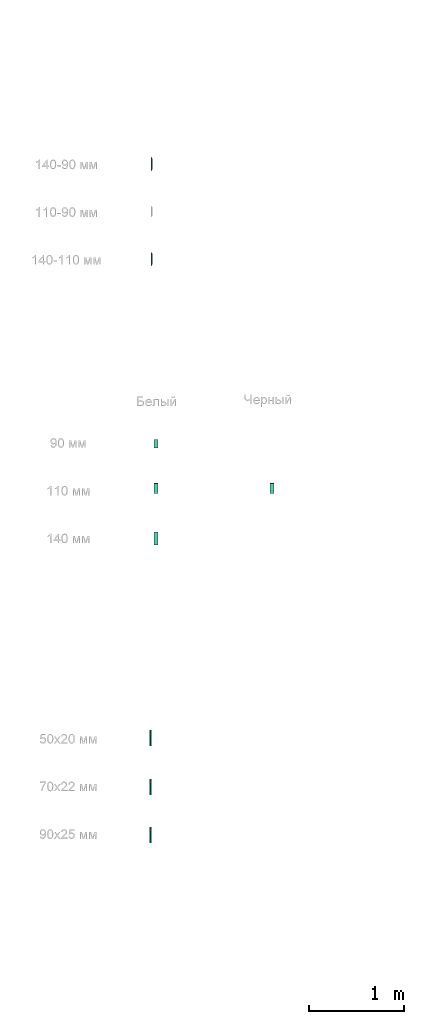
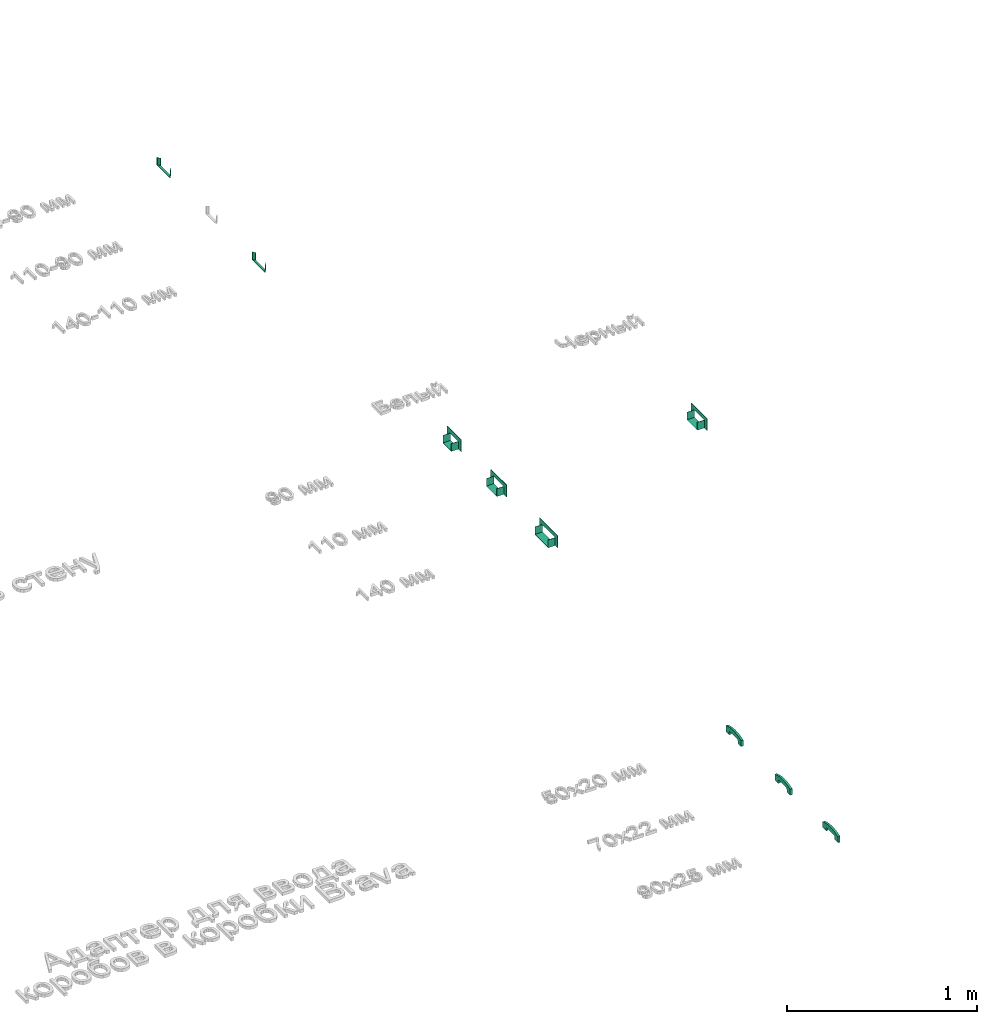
# One storey, part 2 of 87: 9 flow fittings.
"""IFC2X3 building model written with IfcOpenShell, lengths in millimetres."""

import ifcopenshell
import ifcopenshell.guid

model = None  # the IFC model being written
_history = None  # IfcOwnerHistory: only IFC2X3 demands one
_inside = {}  # id of a spatial element -> (the spatial element, [elements in it])
_under = {}  # id of a project, library or spatial element -> (it, [spatial elements below it])
_declared = {}  # id of a project -> (the project, [libraries it declares])
_typed = {}  # id of a type object -> (the type object, [elements of that type])
_made_of = {}  # id of a material, layer set ... -> (it, [elements and type objects made of it])


def new_model(schema):
    """Start an empty IFC model of exactly this schema.

    Asked for "IFC4X3", IfcOpenShell would pick the latest addendum, in which some entities
    have other attributes; the version numbers below select the first issue.
    IFC2X3 requires an IfcOwnerHistory on every rooted entity: one is made here for all.
    """
    global model, _history
    if schema == "IFC4X3":
        model = ifcopenshell.file(schema_version=(4, 3, 0, 0))
    else:
        model = ifcopenshell.file(schema=schema)
    _inside.clear()
    _under.clear()
    _declared.clear()
    _typed.clear()
    _made_of.clear()
    _history = None
    if model.schema == "IFC2X3":
        org = make("IfcOrganization", Name="unknown")
        user = make(
            "IfcPersonAndOrganization",
            ThePerson=make("IfcPerson", FamilyName="unknown"),
            TheOrganization=org,
        )
        app = make(
            "IfcApplication",
            ApplicationDeveloper=org,
            Version="unknown",
            ApplicationFullName="unknown",
            ApplicationIdentifier="unknown",
        )
        _history = make(
            "IfcOwnerHistory",
            OwningUser=user,
            OwningApplication=app,
            ChangeAction="ADDED",
            CreationDate=0,
        )
    return model


def make(cls, **values):
    """One entity of the class cls with the attributes given. An attribute that is None is left unset."""
    return model.create_entity(
        cls, **{name: value for name, value in values.items() if value is not None}
    )


def entity(cls, *values):
    """Any entity or typed value of the class cls, its attributes in the order of the schema. None: left unset."""
    e = model.create_entity(cls)
    for i, value in enumerate(values):
        if value is not None:
            e[i] = value
    return e


def rooted(cls, **values):
    """An entity with a GlobalId (a new one), such as an element, a storey or a relation."""
    return make(cls, GlobalId=ifcopenshell.guid.new(), OwnerHistory=_history, **values)


def si_unit(unit_type, name, prefix=None):
    """IfcSIUnit, for example si_unit("LENGTHUNIT", "METRE", prefix="MILLI")."""
    return make("IfcSIUnit", UnitType=unit_type, Prefix=prefix, Name=name)


def converted_unit(unit_type, name, factor, base, dimensions=None, offset=None):
    """IfcConversionBasedUnit, such as the inch: factor (a typed value) times the base unit."""
    return make(
        "IfcConversionBasedUnit"
        if offset is None
        else "IfcConversionBasedUnitWithOffset",
        ConversionOffset=offset,
        Dimensions=None
        if dimensions is None
        else entity("IfcDimensionalExponents", *dimensions),
        UnitType=unit_type,
        Name=name,
        ConversionFactor=make(
            "IfcMeasureWithUnit", ValueComponent=factor, UnitComponent=base
        ),
    )


def derived_unit(unit_type, elements):
    """IfcDerivedUnit: a product of units, each with its exponent."""
    return make(
        "IfcDerivedUnit",
        Elements=[
            make("IfcDerivedUnitElement", Unit=unit, Exponent=power)
            for unit, power in elements
        ],
        UnitType=unit_type,
    )


def assignment(units):
    """IfcUnitAssignment: the units of a project."""
    return None if units is None else make("IfcUnitAssignment", Units=units)


def point(xyz):
    """IfcCartesianPoint."""
    return None if xyz is None else make("IfcCartesianPoint", Coordinates=xyz)


def direction(xyz):
    """IfcDirection."""
    return None if xyz is None else make("IfcDirection", DirectionRatios=xyz)


def frame(location, z_axis=None, x_axis=None):
    """IfcAxis2Placement3D, a coordinate frame: its origin and axes. An axis left out is left unset."""
    return make(
        "IfcAxis2Placement3D",
        Location=point(location),
        Axis=direction(z_axis),
        RefDirection=direction(x_axis),
    )


def frame_2d(location, x_axis=None):
    """IfcAxis2Placement2D, a coordinate frame in the plane: its origin and x axis."""
    return make(
        "IfcAxis2Placement2D", Location=point(location), RefDirection=direction(x_axis)
    )


def origin():
    """The frame at (0, 0, 0) with its axes left unset."""
    return frame((0.0, 0.0, 0.0))


def place(relative_to, where):
    """IfcLocalPlacement: puts the frame where relative to a parent placement (None: the world)."""
    return make(
        "IfcLocalPlacement", PlacementRelTo=relative_to, RelativePlacement=where
    )


def context(
    kind, dimensions, precision=None, world=None, true_north=None, identifier=None
):
    """IfcGeometricRepresentationContext, for example the 3D "Model" context."""
    return make(
        "IfcGeometricRepresentationContext",
        ContextIdentifier=identifier,
        ContextType=kind,
        CoordinateSpaceDimension=dimensions,
        Precision=precision,
        WorldCoordinateSystem=world,
        TrueNorth=true_north,
    )


def subcontext(parent, identifier, kind, view, scale=None):
    """IfcGeometricRepresentationSubContext, for example "Body" below "Model"."""
    return make(
        "IfcGeometricRepresentationSubContext",
        ContextIdentifier=identifier,
        ContextType=kind,
        ParentContext=parent,
        TargetScale=scale,
        TargetView=view,
    )


def project(units=None, contexts=None):
    """IfcProject with its units and contexts."""
    return rooted(
        "IfcProject",
        Name="project",
        RepresentationContexts=contexts,
        UnitsInContext=assignment(units),
    )


def spatial(cls, under=None, at=None, **own):
    """A site, building, storey or space (cls), placed at a placement, below another one or the project."""
    s = rooted(cls, ObjectPlacement=at, **own)
    if under is not None:
        _under.setdefault(under.id(), (under, []))[1].append(s)
    return s


def polyline(points):
    """IfcPolyline through the points."""
    return make("IfcPolyline", Points=[point(p) for p in points])


def circle_curve(where, radius):
    """IfcCircle in the frame where."""
    return make("IfcCircle", Position=where, Radius=radius)


def parameter(value):
    """IfcParameterValue: where a trimmed curve begins or ends, as a parameter of its basis curve."""
    return model.create_entity("IfcParameterValue", value)


def trimmed(basis, trim1, trim2, sense, master):
    """IfcTrimmedCurve: the piece of a basis curve between two trims."""
    return make(
        "IfcTrimmedCurve",
        BasisCurve=basis,
        Trim1=trim1,
        Trim2=trim2,
        SenseAgreement=sense,
        MasterRepresentation=master,
    )


def segment(curve, same_sense, transition):
    """IfcCompositeCurveSegment."""
    return make(
        "IfcCompositeCurveSegment",
        Transition=transition,
        SameSense=same_sense,
        ParentCurve=curve,
    )


def composite_curve(segments, self_intersect=None):
    """IfcCompositeCurve: segments joined end to end."""
    return make("IfcCompositeCurve", Segments=segments, SelfIntersect=self_intersect)


def outline(outer, holes=None, kind="AREA"):
    """IfcArbitraryClosedProfileDef: a profile drawn as a closed curve; with holes, ...WithVoids."""
    if holes is None:
        return make("IfcArbitraryClosedProfileDef", ProfileType=kind, OuterCurve=outer)
    return make(
        "IfcArbitraryProfileDefWithVoids",
        ProfileType=kind,
        OuterCurve=outer,
        InnerCurves=holes,
    )


def extrude(swept, where, along, depth):
    """IfcExtrudedAreaSolid: the profile swept, set in the frame where, extruded along a direction by depth."""
    return make(
        "IfcExtrudedAreaSolid",
        SweptArea=swept,
        Position=where,
        ExtrudedDirection=direction(along),
        Depth=depth,
    )


def faces_of(points, faces, orient=None, outer=None):
    """IfcFace entities. A face is a list of loops; a loop is a list of indices into points, from 0.

    orient and outer hold one flag for each loop. By default every Orientation is true, the
    first loop of a face is its IfcFaceOuterBound and the others are IfcFaceBound.
    """
    made = []
    for i, loops in enumerate(faces):
        bounds = []
        for j, loop in enumerate(loops):
            is_outer = j == 0 if outer is None else outer[i][j]
            bounds.append(
                make(
                    "IfcFaceOuterBound" if is_outer else "IfcFaceBound",
                    Bound=make("IfcPolyLoop", Polygon=[points[k] for k in loop]),
                    Orientation=True if orient is None else orient[i][j],
                )
            )
        made.append(make("IfcFace", Bounds=bounds))
    return made


def faceted_brep(points, faces, orient=None, outer=None, voids=None):
    """IfcFacetedBrep: a solid bounded by flat faces; with voids (closed shells), ...WithVoids."""
    shared = [point(p) for p in points]
    hull = make("IfcClosedShell", CfsFaces=faces_of(shared, faces, orient, outer))
    if voids is None:
        return make("IfcFacetedBrep", Outer=hull)
    return make(
        "IfcFacetedBrepWithVoids",
        Outer=hull,
        Voids=[
            make(cls, CfsFaces=faces_of(shared, fs, o, b)) for cls, fs, o, b in voids
        ],
    )


def shape(context_of_items, identifier, shape_type, items):
    """IfcShapeRepresentation: the items that make up one representation, for example the "Body"."""
    return make(
        "IfcShapeRepresentation",
        ContextOfItems=context_of_items,
        RepresentationIdentifier=identifier,
        RepresentationType=shape_type,
        Items=items,
    )


def source(mapping_origin, context_of_items, identifier, shape_type, items):
    """IfcRepresentationMap: a shape defined once, which mapped items show again and again."""
    return make(
        "IfcRepresentationMap",
        MappingOrigin=mapping_origin,
        MappedRepresentation=shape(context_of_items, identifier, shape_type, items),
    )


def transform(
    local_origin,
    x_axis=None,
    y_axis=None,
    z_axis=None,
    scale=None,
    scale2=None,
    scale3=None,
    uniform=True,
):
    """IfcCartesianTransformationOperator3D, or its non-uniform kind. x_axis, y_axis, z_axis: its Axis1, 2, 3."""
    if uniform:
        return make(
            "IfcCartesianTransformationOperator3D",
            Axis1=direction(x_axis),
            Axis2=direction(y_axis),
            LocalOrigin=point(local_origin),
            Scale=scale,
            Axis3=direction(z_axis),
        )
    return make(
        "IfcCartesianTransformationOperator3DnonUniform",
        Axis1=direction(x_axis),
        Axis2=direction(y_axis),
        LocalOrigin=point(local_origin),
        Scale=scale,
        Axis3=direction(z_axis),
        Scale2=scale2,
        Scale3=scale3,
    )


def mapped(mapping_source, mapping_target):
    """IfcMappedItem: shows the shape of a source again, moved by a transform."""
    return make(
        "IfcMappedItem", MappingSource=mapping_source, MappingTarget=mapping_target
    )


def material(Name=None, Category=None):
    """IfcMaterial."""
    return make("IfcMaterial", Name=Name, Category=Category)


def made_of(thing, what):
    """Note that an element or type object is made of a material, layer set ...; save() writes the relation."""
    if what is not None:
        _made_of.setdefault(what.id(), (what, []))[1].append(thing)
    return thing


def type_object(cls, material=None, **own):
    """A type object (cls), such as IfcWallType, which elements share."""
    return made_of(rooted(cls, **own), material)


def type_shapes(of_type, sources):
    """Give a type object the sources (RepresentationMaps) that its elements show as mapped items."""
    of_type.RepresentationMaps = sources


def element(
    cls,
    number,
    at=None,
    inside=None,
    cuts=None,
    type_object=None,
    material=None,
    context=None,
    identifier="Body",
    shape_type=None,
    held_by="IfcProductDefinitionShape",
    body=None,
    shapes=None,
    **own,
):
    """One element of the class cls, such as IfcWall. Its Tag is "e" and its number.

    at: its placement. inside: the storey or other place that contains it. cuts: it is an
    opening in that element (IfcRelVoidsElement). A single representation is given by context,
    identifier, shape_type and body (its items); several are given by shapes. held_by: the class
    of the entity that holds the representations. save() writes the other relations.
    """
    e = rooted(cls, Tag="e%d" % number, ObjectPlacement=at, **own)
    if body is not None:
        shapes = [shape(context, identifier, shape_type, body)]
    if shapes is not None:
        e.Representation = make(held_by, Representations=shapes)
    if inside is not None:
        _inside.setdefault(inside.id(), (inside, []))[1].append(e)
    if cuts is not None:
        rooted(
            "IfcRelVoidsElement", RelatingBuildingElement=cuts, RelatedOpeningElement=e
        )
    if type_object is not None:
        _typed.setdefault(type_object.id(), (type_object, []))[1].append(e)
    return made_of(e, material)


def aggregate(whole, parts):
    """IfcRelAggregates: a whole, such as a stair, and the parts it consists of."""
    return rooted("IfcRelAggregates", RelatingObject=whole, RelatedObjects=parts)


def save(model, path):
    """Write the relations noted so far, then the file.

    IfcRelAggregates (storeys below a building ...), IfcRelContainedInSpatialStructure (elements
    in a storey), IfcRelDefinesByType, IfcRelAssociatesMaterial and IfcRelDeclares: one each for
    every whole, place, type object, material and project.
    """
    for whole, parts in _under.values():
        aggregate(whole, parts)
    for where, things in _inside.values():
        rooted(
            "IfcRelContainedInSpatialStructure",
            RelatedElements=things,
            RelatingStructure=where,
        )
    for kind, things in _typed.values():
        rooted("IfcRelDefinesByType", RelatedObjects=things, RelatingType=kind)
    for what, things in _made_of.values():
        rooted("IfcRelAssociatesMaterial", RelatedObjects=things, RelatingMaterial=what)
    for by, libraries in _declared.values():
        rooted("IfcRelDeclares", RelatingContext=by, RelatedDefinitions=libraries)
    model.write(path)


model = new_model("IFC2X3")

# Units and contexts
model_context = context("Model", 3, precision=0.01, world=origin(), true_north=direction((6.12303176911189e-17, 1.0)))
body_context = subcontext(model_context, "Body", "Model", "MODEL_VIEW")
ifc_project = project(units=[si_unit("LENGTHUNIT", "METRE", prefix="MILLI"), si_unit("AREAUNIT", "SQUARE_METRE"), si_unit("VOLUMEUNIT", "CUBIC_METRE"), converted_unit("PLANEANGLEUNIT", "DEGREE", entity("IfcRatioMeasure", 0.0174532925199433), si_unit("PLANEANGLEUNIT", "RADIAN"), dimensions=[0, 0, 0, 0, 0, 0, 0]), si_unit("MASSUNIT", "GRAM", prefix="KILO"), derived_unit("MASSDENSITYUNIT", [(si_unit("MASSUNIT", "GRAM", prefix="KILO"), 1), (si_unit("LENGTHUNIT", "METRE"), -3)]), si_unit("TIMEUNIT", "SECOND"), si_unit("FREQUENCYUNIT", "HERTZ"), si_unit("THERMODYNAMICTEMPERATUREUNIT", "DEGREE_CELSIUS"), derived_unit("THERMALTRANSMITTANCEUNIT", [(si_unit("MASSUNIT", "GRAM", prefix="KILO"), 1), (si_unit("THERMODYNAMICTEMPERATUREUNIT", "KELVIN"), -1), (si_unit("TIMEUNIT", "SECOND"), -3)]), derived_unit("VOLUMETRICFLOWRATEUNIT", [(si_unit("LENGTHUNIT", "METRE"), 3), (si_unit("TIMEUNIT", "SECOND"), -1)]), si_unit("ELECTRICCURRENTUNIT", "AMPERE"), si_unit("ELECTRICVOLTAGEUNIT", "VOLT"), si_unit("POWERUNIT", "WATT"), si_unit("FORCEUNIT", "NEWTON", prefix="KILO"), si_unit("ILLUMINANCEUNIT", "LUX"), si_unit("LUMINOUSFLUXUNIT", "LUMEN"), si_unit("LUMINOUSINTENSITYUNIT", "CANDELA"), derived_unit("USERDEFINED", [(si_unit("MASSUNIT", "GRAM", prefix="KILO"), -1), (si_unit("LENGTHUNIT", "METRE"), -2), (si_unit("TIMEUNIT", "SECOND"), 3), (si_unit("LUMINOUSFLUXUNIT", "LUMEN"), 1)]), derived_unit("LINEARVELOCITYUNIT", [(si_unit("LENGTHUNIT", "METRE"), 1), (si_unit("TIMEUNIT", "SECOND"), -1)]), si_unit("PRESSUREUNIT", "PASCAL"), derived_unit("USERDEFINED", [(si_unit("LENGTHUNIT", "METRE"), -2), (si_unit("MASSUNIT", "GRAM", prefix="KILO"), 1), (si_unit("TIMEUNIT", "SECOND"), -2)])], contexts=[model_context])

# Site, building, storey
site_placement = place(None, origin())
site = spatial("IfcSite", under=ifc_project, at=site_placement, Name="Default", CompositionType="ELEMENT")
building_placement = place(site_placement, origin())
building = spatial("IfcBuilding", under=site, at=building_placement, Name="Наименование здания", CompositionType="ELEMENT")
storey_placement = place(building_placement, origin())
storey = spatial("IfcBuildingStorey", under=building, at=storey_placement, Name="Этаж 01", CompositionType="ELEMENT", Elevation=0.0)

# Flow fittings
cable_carrier_fitting_type_1 = type_object("IfcCableCarrierFittingType", Name="Переходник_ILF_DKC", PredefinedType="NOTDEFINED")
shared_shape_1 = source(origin(), body_context, "Body", "Brep", [
    faceted_brep([(-7.49999999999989, 70.0, -25.0), (-7.50000000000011, -70.0, -25.0), (-7.50000000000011, -70.0, 25.0), (-7.50000000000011, -67.4999999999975, 25.0), (-7.50000000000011, -67.4999999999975, -22.4999999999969), (-7.49999999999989, 67.5000000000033, -22.4999999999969), (-7.49999999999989, 67.5000000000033, 25.0), (-7.49999999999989, 70.0, 25.0), (-5.0, 70.0, 25.0), (-5.0, 70.0, -25.0), (-5.0, 67.5000000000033, 25.0), (5.0, 52.4999999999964, 25.0), (7.50000000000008, 52.4999999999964, 25.0), (7.50000000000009, 55.0, 25.0), (5.0, 55.0, 25.0), (-5.0, 67.5000000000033, -22.4999999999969), (-5.0, -67.4999999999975, -22.4999999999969), (5.0, -52.5000000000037, -22.4999999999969), (7.49999999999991, -52.5000000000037, -22.4999999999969), (7.50000000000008, 52.4999999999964, -22.4999999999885), (5.0, 52.4999999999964, -22.4999999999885), (-5.0, -67.4999999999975, 25.0), (-5.0, -70.0, 25.0), (5.0, -55.0, 25.0), (7.49999999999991, -55.0, 25.0), (7.49999999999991, -52.5000000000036, 25.0), (5.0, -52.5000000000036, 25.0), (-5.0, -70.0, -25.0), (5.0, 55.0, -25.0), (7.50000000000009, 55.0, -25.0), (7.49999999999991, -55.0, -25.0), (5.0, -55.0, -25.0)], [[[0, 1, 2, 3, 4, 5, 6, 7]], [[0, 7, 8, 9]], [[7, 6, 10, 11, 12, 13, 14, 8]], [[6, 5, 15, 10]], [[5, 4, 16, 17, 18, 19, 20, 15]], [[4, 3, 21, 16]], [[3, 2, 22, 23, 24, 25, 26, 21]], [[2, 1, 27, 22]], [[1, 0, 9, 28, 29, 30, 31, 27]], [[15, 20, 11, 10]], [[17, 16, 21, 26]], [[23, 22, 27, 31]], [[28, 9, 8, 14]], [[29, 13, 12, 19, 18, 25, 24, 30]], [[30, 24, 23, 31]], [[25, 18, 17, 26]], [[19, 12, 11, 20]], [[13, 29, 28, 14]]]),
])
type_shapes(cable_carrier_fitting_type_1, [shared_shape_1])
for number, where in (
    (1, (12963.6576347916, -29151.0390094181, 0.0)),
    (2, (12963.6576347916, -30151.0390094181, 0.0)),
):
    element("IfcFlowFitting", number, at=place(storey_placement, frame(where)), inside=storey, type_object=cable_carrier_fitting_type_1, Name="КНС_Переходник_ILF_DKC:Переходник_ILF_DKC", ObjectType="Переходник_ILF_DKC", context=body_context, shape_type="MappedRepresentation", body=[
        mapped(shared_shape_1, transform((0.0, 0.0, 0.0), scale=1.0)),
    ])
cable_carrier_fitting_type_2 = type_object("IfcCableCarrierFittingType", Name="50х20, 50/2х20", PredefinedType="NOTDEFINED")
shared_shape_2 = source(origin(), body_context, "Body", "SweptSolid", [
    extrude(outline(composite_curve([segment(polyline([(45.0, -15.5999999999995), (80.5000000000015, -15.5999999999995)]), True, "CONTINUOUS"), segment(polyline([(80.5000000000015, -15.5999999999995), (80.5000000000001, 22.3999999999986)]), True, "CONTINUOUS"), segment(trimmed(circle_curve(frame_2d((0.0, -186.108333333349), x_axis=(1.0, 0.0)), 223.508333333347), [parameter(68.8896371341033)], [parameter(111.110362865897)], True, "PARAMETER"), True, "CONTINUOUS"), segment(polyline([(-80.5000000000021, 22.399999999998), (-80.5000000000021, -15.5999999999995)]), True, "CONTINUOUS"), segment(polyline([(-80.5000000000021, -15.5999999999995), (-45.0, -15.5999999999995)]), True, "CONTINUOUS"), segment(polyline([(-45.0, -15.5999999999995), (-45.0, -0.599999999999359)]), True, "CONTINUOUS"), segment(trimmed(circle_curve(frame_2d((-35.0, -0.599999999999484), x_axis=(1.0, 0.0)), 9.99999999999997), [parameter(90.0000000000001)], [parameter(180.0)], True, "PARAMETER"), False, "CONTINUOUS"), segment(polyline([(-35.0, 9.40000000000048), (35.0, 9.40000000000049)]), True, "CONTINUOUS"), segment(trimmed(circle_curve(frame_2d((35.0, -0.599999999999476), x_axis=(1.0, 0.0)), 9.99999999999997), [parameter(3.56222124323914e-13)], [parameter(90.0000000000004)], True, "PARAMETER"), False, "CONTINUOUS"), segment(polyline([(45.0, -0.599999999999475), (45.0, -15.5999999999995)]), True, "CONTINUOUS")], self_intersect=False)), frame((-13.0, 0.0, 3.10000000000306), z_axis=(1.0, 0.0, 0.0), x_axis=(0.0, 1.0, 0.0)), (0.0, 0.0, 1.0), 13.0),
])
type_shapes(cable_carrier_fitting_type_2, [shared_shape_2])
flow_fitting_1_placement = place(storey_placement, frame((12955.8857016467, -35169.5141451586, 0.0)))
element("IfcFlowFitting", 3, at=flow_fitting_1_placement, inside=storey, type_object=cable_carrier_fitting_type_2, Name="КНС_АдаптерДляВводаКоробовВКоробкиBrava_ILF_DKC:50х20, 50/2х20", ObjectType="50х20, 50/2х20", context=body_context, shape_type="MappedRepresentation", body=[
    mapped(shared_shape_2, transform((0.0, 0.0, 0.0), scale=1.0)),
])
cable_carrier_fitting_type_3 = type_object("IfcCableCarrierFittingType", Name="70х22", PredefinedType="NOTDEFINED")
shared_shape_3 = source(origin(), body_context, "Body", "SweptSolid", [
    extrude(outline(composite_curve([segment(polyline([(45.0, -15.5999999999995), (80.5000000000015, -15.5999999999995)]), True, "CONTINUOUS"), segment(polyline([(80.5000000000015, -15.5999999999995), (80.5000000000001, 22.3999999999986)]), True, "CONTINUOUS"), segment(trimmed(circle_curve(frame_2d((0.0, -186.108333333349), x_axis=(1.0, 0.0)), 223.508333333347), [parameter(68.8896371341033)], [parameter(111.110362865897)], True, "PARAMETER"), True, "CONTINUOUS"), segment(polyline([(-80.5000000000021, 22.399999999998), (-80.5000000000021, -15.5999999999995)]), True, "CONTINUOUS"), segment(polyline([(-80.5000000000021, -15.5999999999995), (-45.0, -15.5999999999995)]), True, "CONTINUOUS"), segment(polyline([(-45.0, -15.5999999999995), (-45.0, -0.599999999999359)]), True, "CONTINUOUS"), segment(trimmed(circle_curve(frame_2d((-35.0, -0.599999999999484), x_axis=(1.0, 0.0)), 9.99999999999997), [parameter(90.0000000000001)], [parameter(180.0)], True, "PARAMETER"), False, "CONTINUOUS"), segment(polyline([(-35.0, 9.40000000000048), (35.0, 9.40000000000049)]), True, "CONTINUOUS"), segment(trimmed(circle_curve(frame_2d((35.0, -0.599999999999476), x_axis=(1.0, 0.0)), 9.99999999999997), [parameter(3.56222124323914e-13)], [parameter(90.0000000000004)], True, "PARAMETER"), False, "CONTINUOUS"), segment(polyline([(45.0, -0.599999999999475), (45.0, -15.5999999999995)]), True, "CONTINUOUS")], self_intersect=False)), frame((-13.0, 0.0, 3.10000000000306), z_axis=(1.0, 0.0, 0.0), x_axis=(0.0, 1.0, 0.0)), (0.0, 0.0, 1.0), 13.0),
])
type_shapes(cable_carrier_fitting_type_3, [shared_shape_3])
flow_fitting_2_placement = place(storey_placement, frame((12955.8857016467, -35684.5301822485, 0.0)))
element("IfcFlowFitting", 4, at=flow_fitting_2_placement, inside=storey, type_object=cable_carrier_fitting_type_3, Name="КНС_АдаптерДляВводаКоробовВКоробкиBrava_ILF_DKC:70х22", ObjectType="70х22", context=body_context, shape_type="MappedRepresentation", body=[
    mapped(shared_shape_3, transform((0.0, 0.0, 0.0), scale=1.0)),
])
cable_carrier_fitting_type_4 = type_object("IfcCableCarrierFittingType", Name="90х25", PredefinedType="NOTDEFINED")
shared_shape_4 = source(origin(), body_context, "Body", "SweptSolid", [
    extrude(outline(composite_curve([segment(polyline([(45.0, -15.5999999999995), (80.5000000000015, -15.5999999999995)]), True, "CONTINUOUS"), segment(polyline([(80.5000000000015, -15.5999999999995), (80.5000000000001, 22.3999999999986)]), True, "CONTINUOUS"), segment(trimmed(circle_curve(frame_2d((0.0, -186.108333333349), x_axis=(1.0, 0.0)), 223.508333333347), [parameter(68.8896371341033)], [parameter(111.110362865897)], True, "PARAMETER"), True, "CONTINUOUS"), segment(polyline([(-80.5000000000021, 22.399999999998), (-80.5000000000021, -15.5999999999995)]), True, "CONTINUOUS"), segment(polyline([(-80.5000000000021, -15.5999999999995), (-45.0, -15.5999999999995)]), True, "CONTINUOUS"), segment(polyline([(-45.0, -15.5999999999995), (-45.0, -0.599999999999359)]), True, "CONTINUOUS"), segment(trimmed(circle_curve(frame_2d((-35.0, -0.599999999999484), x_axis=(1.0, 0.0)), 9.99999999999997), [parameter(90.0000000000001)], [parameter(180.0)], True, "PARAMETER"), False, "CONTINUOUS"), segment(polyline([(-35.0, 9.40000000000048), (35.0, 9.40000000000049)]), True, "CONTINUOUS"), segment(trimmed(circle_curve(frame_2d((35.0, -0.599999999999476), x_axis=(1.0, 0.0)), 9.99999999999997), [parameter(3.56222124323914e-13)], [parameter(90.0000000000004)], True, "PARAMETER"), False, "CONTINUOUS"), segment(polyline([(45.0, -0.599999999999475), (45.0, -15.5999999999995)]), True, "CONTINUOUS")], self_intersect=False)), frame((-13.0, 0.0, 3.10000000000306), z_axis=(1.0, 0.0, 0.0), x_axis=(0.0, 1.0, 0.0)), (0.0, 0.0, 1.0), 13.0),
])
type_shapes(cable_carrier_fitting_type_4, [shared_shape_4])
flow_fitting_3_placement = place(storey_placement, frame((12955.8857016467, -36187.6243760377, 0.0)))
element("IfcFlowFitting", 5, at=flow_fitting_3_placement, inside=storey, type_object=cable_carrier_fitting_type_4, Name="КНС_АдаптерДляВводаКоробовВКоробкиBrava_ILF_DKC:90х25", ObjectType="90х25", context=body_context, shape_type="MappedRepresentation", body=[
    mapped(shared_shape_4, transform((0.0, 0.0, 0.0), scale=1.0)),
])
ifc_material_1 = material(Name="DKC_Пластик_Белый")
cable_carrier_fitting_type_5 = type_object("IfcCableCarrierFittingType", Name="Белый", PredefinedType="NOTDEFINED", material=ifc_material_1)
shared_shape_5 = source(origin(), body_context, "Body", "SweptSolid", [
    extrude(outline(polyline([(-25.6250000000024, -45.0), (24.3749999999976, -45.0), (24.3749999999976, -42.5000000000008), (-23.1249999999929, -42.5000000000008), (-23.1249999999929, 42.4999999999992), (24.3749999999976, 42.4999999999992), (24.3749999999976, 45.0), (-25.6250000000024, 45.0), (-25.6250000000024, -45.0)])), frame((-45.0, 0.0, 0.625000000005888), z_axis=(1.0, 0.0, 0.0), x_axis=(0.0, 0.0, 1.0)), (0.0, 0.0, 1.0), 45.0),
    extrude(outline(polyline([(45.0, -31.7500000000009), (72.7499999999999, -31.7500000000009), (72.7499999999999, 45.249999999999), (-72.7500000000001, 45.249999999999), (-72.7500000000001, -31.7500000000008), (-45.0, -31.7500000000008), (-45.0, 18.2500000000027), (45.0, 18.2500000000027), (45.0, -31.7500000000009)])), frame((-2.50000000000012, 0.0, 6.75000000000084), z_axis=(1.0, 0.0, 0.0), x_axis=(0.0, 1.0, 0.0)), (0.0, 0.0, 1.0), 2.50000000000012),
])
type_shapes(cable_carrier_fitting_type_5, [shared_shape_5])
flow_fitting_4_placement = place(storey_placement, frame((13029.9407067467, -32084.7913554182, 0.0)))
element("IfcFlowFitting", 6, at=flow_fitting_4_placement, inside=storey, type_object=cable_carrier_fitting_type_5, material=ifc_material_1, Name="КНС_ВводВСтену_ILF_DKC:Белый", ObjectType="Белый", context=body_context, shape_type="MappedRepresentation", body=[
    mapped(shared_shape_5, transform((0.0, 0.0, 0.0), scale=1.0)),
])
cable_carrier_fitting_type_6 = type_object("IfcCableCarrierFittingType", Name="Белый", PredefinedType="NOTDEFINED", material=ifc_material_1)
shared_shape_6 = source(origin(), body_context, "Body", "SweptSolid", [
    extrude(outline(polyline([(-25.6250000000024, -70.0), (24.3749999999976, -70.0), (24.3749999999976, -67.5000000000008), (-23.1249999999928, -67.5000000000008), (-23.1249999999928, 67.4999999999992), (24.3749999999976, 67.4999999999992), (24.3749999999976, 70.0), (-25.6250000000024, 70.0), (-25.6250000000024, -70.0)])), frame((-45.0, 0.0, 0.625000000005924), z_axis=(1.0, 0.0, 0.0), x_axis=(0.0, 0.0, 1.0)), (0.0, 0.0, 1.0), 45.0),
    extrude(outline(polyline([(70.0, -32.0), (96.0, -32.0), (96.0, 46.0), (-96.0, 46.0), (-96.0, -32.0), (-70.0, -32.0), (-70.0, 18.0), (70.0, 18.0), (70.0, -32.0)])), frame((-2.50000000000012, 0.0, 7.0), z_axis=(1.0, 0.0, 0.0), x_axis=(0.0, 1.0, 0.0)), (0.0, 0.0, 1.0), 2.50000000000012),
])
type_shapes(cable_carrier_fitting_type_6, [shared_shape_6])
flow_fitting_5_placement = place(storey_placement, frame((13029.9407067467, -33078.4518752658, 0.0)))
element("IfcFlowFitting", 7, at=flow_fitting_5_placement, inside=storey, type_object=cable_carrier_fitting_type_6, material=ifc_material_1, Name="КНС_ВводВСтену_ILF_DKC:Белый", ObjectType="Белый", context=body_context, shape_type="MappedRepresentation", body=[
    mapped(shared_shape_6, transform((0.0, 0.0, 0.0), scale=1.0)),
])
ifc_material_2 = material(Name="DKC_Пластик_Серо-черный")
cable_carrier_fitting_type_7 = type_object("IfcCableCarrierFittingType", Name="Черный", PredefinedType="NOTDEFINED", material=ifc_material_2)
shared_shape_7 = source(origin(), body_context, "Body", "SweptSolid", [
    extrude(outline(polyline([(-25.6250000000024, -55.0), (24.3749999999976, -55.0), (24.3749999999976, -52.5000000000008), (-23.1249999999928, -52.5000000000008), (-23.1249999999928, 52.4999999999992), (24.3749999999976, 52.4999999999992), (24.3749999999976, 55.0), (-25.6250000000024, 55.0), (-25.6250000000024, -55.0)])), frame((-45.0, 0.0, 0.625000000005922), z_axis=(1.0, 0.0, 0.0), x_axis=(0.0, 0.0, 1.0)), (0.0, 0.0, 1.0), 45.0),
    extrude(outline(polyline([(55.0, -31.7999999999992), (82.500000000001, -31.7999999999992), (82.500000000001, 45.3999999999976), (-82.5000000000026, 45.3999999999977), (-82.5000000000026, -31.7999999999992), (-55.0, -31.7999999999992), (-55.0, 18.2000000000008), (55.0, 18.2000000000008), (55.0, -31.7999999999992)])), frame((-2.50000000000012, 0.0, 6.80000000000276), z_axis=(1.0, 0.0, 0.0), x_axis=(0.0, 1.0, 0.0)), (0.0, 0.0, 1.0), 2.50000000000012),
])
type_shapes(cable_carrier_fitting_type_7, [shared_shape_7])
flow_fitting_6_placement = place(storey_placement, frame((14247.4779131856, -32552.3189129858, 0.0)))
element("IfcFlowFitting", 8, at=flow_fitting_6_placement, inside=storey, type_object=cable_carrier_fitting_type_7, material=ifc_material_2, Name="КНС_ВводВСтену_ILF_DKC:Черный", ObjectType="Черный", context=body_context, shape_type="MappedRepresentation", body=[
    mapped(shared_shape_7, transform((0.0, 0.0, 0.0), scale=1.0)),
])
cable_carrier_fitting_type_8 = type_object("IfcCableCarrierFittingType", Name="Белый", PredefinedType="NOTDEFINED", material=ifc_material_1)
shared_shape_8 = source(origin(), body_context, "Body", "SweptSolid", [
    extrude(outline(polyline([(-25.6250000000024, -55.0), (24.3749999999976, -55.0), (24.3749999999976, -52.5000000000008), (-23.1249999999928, -52.5000000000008), (-23.1249999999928, 52.4999999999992), (24.3749999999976, 52.4999999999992), (24.3749999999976, 55.0), (-25.6250000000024, 55.0), (-25.6250000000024, -55.0)])), frame((-45.0, 0.0, 0.625000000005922), z_axis=(1.0, 0.0, 0.0), x_axis=(0.0, 0.0, 1.0)), (0.0, 0.0, 1.0), 45.0),
    extrude(outline(polyline([(55.0, -31.7999999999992), (82.500000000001, -31.7999999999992), (82.500000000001, 45.3999999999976), (-82.5000000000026, 45.3999999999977), (-82.5000000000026, -31.7999999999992), (-55.0, -31.7999999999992), (-55.0, 18.2000000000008), (55.0, 18.2000000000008), (55.0, -31.7999999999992)])), frame((-2.50000000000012, 0.0, 6.80000000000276), z_axis=(1.0, 0.0, 0.0), x_axis=(0.0, 1.0, 0.0)), (0.0, 0.0, 1.0), 2.50000000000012),
])
type_shapes(cable_carrier_fitting_type_8, [shared_shape_8])
flow_fitting_7_placement = place(storey_placement, frame((13029.9407067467, -32552.3189129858, 0.0)))
element("IfcFlowFitting", 9, at=flow_fitting_7_placement, inside=storey, type_object=cable_carrier_fitting_type_8, material=ifc_material_1, Name="КНС_ВводВСтену_ILF_DKC:Белый", ObjectType="Белый", context=body_context, shape_type="MappedRepresentation", body=[
    mapped(shared_shape_8, transform((0.0, 0.0, 0.0), scale=1.0)),
])

save(model, "model.ifc")
